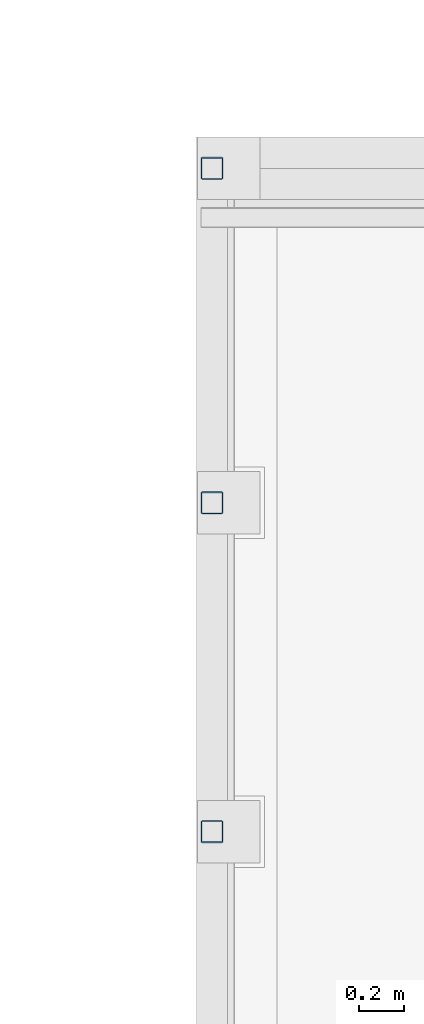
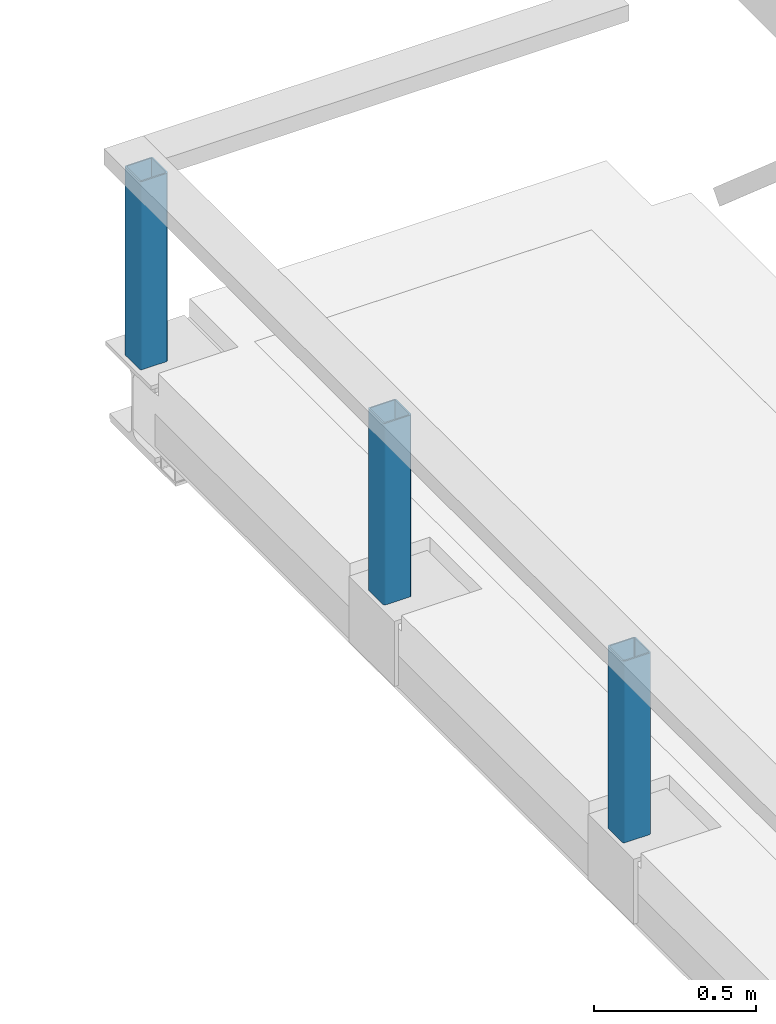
# One storey, part 13 of 68: 3 columns.
"""IFC2X3 building model written with IfcOpenShell, lengths in millimetres."""

from ifc_helpers import new_model, entity, si_unit, converted_unit, derived_unit, direction, frame, frame_2d, origin, place, context, subcontext, project, spatial, polyline, circle_curve, parameter, trimmed, segment, composite_curve, outline, extrude, source, transform, mapped, material, type_object, type_shapes, element, save


model = new_model("IFC2X3")

# Units and contexts
model_context = context("Model", 3, precision=0.01, world=origin(), true_north=direction((6.12303176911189e-17, 1.0)))
body_context = subcontext(model_context, "Body", "Model", "MODEL_VIEW")
ifc_project = project(units=[si_unit("LENGTHUNIT", "METRE", prefix="MILLI"), si_unit("AREAUNIT", "SQUARE_METRE", prefix="MILLI"), si_unit("VOLUMEUNIT", "CUBIC_METRE"), converted_unit("PLANEANGLEUNIT", "DEGREE", entity("IfcRatioMeasure", 0.0174532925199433), si_unit("PLANEANGLEUNIT", "RADIAN"), dimensions=[0, 0, 0, 0, 0, 0, 0]), si_unit("MASSUNIT", "GRAM", prefix="KILO"), derived_unit("MASSDENSITYUNIT", [(si_unit("MASSUNIT", "GRAM", prefix="KILO"), 1), (si_unit("LENGTHUNIT", "METRE"), -3)]), derived_unit("MOMENTOFINERTIAUNIT", [(si_unit("LENGTHUNIT", "METRE"), 4)]), si_unit("TIMEUNIT", "SECOND"), si_unit("FREQUENCYUNIT", "HERTZ"), si_unit("THERMODYNAMICTEMPERATUREUNIT", "DEGREE_CELSIUS"), derived_unit("THERMALTRANSMITTANCEUNIT", [(si_unit("MASSUNIT", "GRAM", prefix="KILO"), 1), (si_unit("THERMODYNAMICTEMPERATUREUNIT", "KELVIN"), -1), (si_unit("TIMEUNIT", "SECOND"), -3)]), derived_unit("VOLUMETRICFLOWRATEUNIT", [(si_unit("LENGTHUNIT", "METRE"), 3), (si_unit("TIMEUNIT", "SECOND"), -1)]), si_unit("ELECTRICCURRENTUNIT", "AMPERE"), si_unit("ELECTRICVOLTAGEUNIT", "VOLT"), si_unit("POWERUNIT", "WATT"), si_unit("FORCEUNIT", "NEWTON", prefix="KILO"), si_unit("ILLUMINANCEUNIT", "LUX"), si_unit("LUMINOUSFLUXUNIT", "LUMEN"), si_unit("LUMINOUSINTENSITYUNIT", "CANDELA"), derived_unit("USERDEFINED", [(si_unit("MASSUNIT", "GRAM", prefix="KILO"), -1), (si_unit("LENGTHUNIT", "METRE"), -2), (si_unit("TIMEUNIT", "SECOND"), 3), (si_unit("LUMINOUSFLUXUNIT", "LUMEN"), 1)]), derived_unit("LINEARVELOCITYUNIT", [(si_unit("LENGTHUNIT", "METRE"), 1), (si_unit("TIMEUNIT", "SECOND"), -1)]), si_unit("PRESSUREUNIT", "PASCAL"), derived_unit("USERDEFINED", [(si_unit("LENGTHUNIT", "METRE"), -2), (si_unit("MASSUNIT", "GRAM", prefix="KILO"), 1), (si_unit("TIMEUNIT", "SECOND"), -2)]), derived_unit("LINEARFORCEUNIT", [(si_unit("MASSUNIT", "GRAM", prefix="KILO"), 1), (si_unit("LENGTHUNIT", "METRE"), 1), (si_unit("TIMEUNIT", "SECOND"), -2), (si_unit("LENGTHUNIT", "METRE"), -1)]), derived_unit("PLANARFORCEUNIT", [(si_unit("MASSUNIT", "GRAM", prefix="KILO"), 1), (si_unit("LENGTHUNIT", "METRE"), 1), (si_unit("TIMEUNIT", "SECOND"), -2), (si_unit("LENGTHUNIT", "METRE"), -2)])], contexts=[model_context])

# Site, building, storey
site_placement = place(None, origin())
site = spatial("IfcSite", under=ifc_project, at=site_placement, Name="Theater aan de Parade", CompositionType="ELEMENT")
building_placement = place(site_placement, origin())
building = spatial("IfcBuilding", under=site, at=building_placement, Name="Theater aan de Parade", CompositionType="ELEMENT")
storey_placement = place(building_placement, frame((0.0, 0.0, 8750.0)))
storey = spatial("IfcBuildingStorey", under=building, at=storey_placement, Name="02 tweede verdieping", CompositionType="ELEMENT", Elevation=8750.0)

# Columns
ifc_material = material(Name="00_PBT_MAT_staal_S355")
column_type_1 = type_object("IfcColumnType", Name="28_PBT_SC_staal_koker:S355_K100x100x5", PredefinedType="COLUMN", material=ifc_material)
shared_shape_1 = source(origin(), body_context, "Body", "SweptSolid", [
    extrude(outline(composite_curve([segment(polyline([(-42.5, -50.0), (42.5, -50.0)]), True, "CONTINUOUS"), segment(trimmed(circle_curve(frame_2d((42.5, -42.5), x_axis=(0.0, 1.0)), 7.5), [parameter(180.0)], [parameter(270.0)], True, "PARAMETER"), True, "CONTINUOUS"), segment(polyline([(50.0, -42.5), (50.0, 42.5)]), True, "CONTINUOUS"), segment(trimmed(circle_curve(frame_2d((42.5, 42.5), x_axis=(0.0, 1.0)), 7.5), [parameter(270.0)], [parameter(360.0)], True, "PARAMETER"), True, "CONTINUOUS"), segment(polyline([(42.5, 50.0), (-42.5, 50.0)]), True, "CONTINUOUS"), segment(trimmed(circle_curve(frame_2d((-42.5, 42.5), x_axis=(0.0, 1.0)), 7.5), [parameter(0.0)], [parameter(90.0000000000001)], True, "PARAMETER"), True, "CONTINUOUS"), segment(polyline([(-50.0, 42.5), (-50.0, -42.5)]), True, "CONTINUOUS"), segment(trimmed(circle_curve(frame_2d((-42.5, -42.5), x_axis=(0.0, 1.0)), 7.5), [parameter(89.9999999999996)], [parameter(180.0)], True, "PARAMETER"), True, "CONTINUOUS")], self_intersect=False), holes=[composite_curve([segment(polyline([(45.0, 40.0), (45.0, -40.0)]), True, "CONTINUOUS"), segment(trimmed(circle_curve(frame_2d((40.0, -40.0), x_axis=(0.0, 1.0)), 5.0), [parameter(180.0)], [parameter(270.0)], True, "PARAMETER"), False, "CONTINUOUS"), segment(polyline([(40.0, -45.0), (-40.0, -45.0)]), True, "CONTINUOUS"), segment(trimmed(circle_curve(frame_2d((-40.0, -40.0), x_axis=(0.0, 1.0)), 5.0), [parameter(90.0)], [parameter(180.0)], True, "PARAMETER"), False, "CONTINUOUS"), segment(polyline([(-45.0, -40.0), (-45.0, 40.0)]), True, "CONTINUOUS"), segment(trimmed(circle_curve(frame_2d((-40.0, 40.0), x_axis=(0.0, 1.0)), 5.0), [parameter(4.07110999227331e-13)], [parameter(90.0000000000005)], True, "PARAMETER"), False, "CONTINUOUS"), segment(polyline([(-40.0, 45.0), (40.0, 45.0)]), True, "CONTINUOUS"), segment(trimmed(circle_curve(frame_2d((40.0, 40.0), x_axis=(0.0, 1.0)), 5.0), [parameter(270.0)], [parameter(0.0)], True, "PARAMETER"), False, "CONTINUOUS")], self_intersect=False)]), frame((0.0, 0.0, 8695.0), z_axis=(0.0, 0.0, 1.0), x_axis=(0.0, 1.0, 0.0)), (0.0, 0.0, 1.0), 708.000000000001),
])
type_shapes(column_type_1, [shared_shape_1])
column_placement = place(storey_placement, frame((34296.8569737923, 29518.2922984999, -8750.0), z_axis=(0.0, 0.0, 1.0), x_axis=(-1.0, 0.0, 0.0)))
element("IfcColumn", 1, at=column_placement, inside=storey, type_object=column_type_1, material=ifc_material, Name="28_PBT_SC_staal_koker:S355_K100x100x5", ObjectType="28_PBT_SC_staal_koker:S355_K100x100x5", context=body_context, shape_type="MappedRepresentation", body=[
    mapped(shared_shape_1, transform((0.0, 0.0, 0.0), scale=1.0)),
])
column_type_2 = type_object("IfcColumnType", Name="28_PBT_SC_staal_koker:S355_K100x100x5", PredefinedType="COLUMN", material=ifc_material)
shared_shape_2 = source(origin(), body_context, "Body", "SweptSolid", [
    extrude(outline(composite_curve([segment(polyline([(-42.5, -50.0), (42.5, -50.0)]), True, "CONTINUOUS"), segment(trimmed(circle_curve(frame_2d((42.5, -42.5), x_axis=(0.0, 1.0)), 7.5), [parameter(180.0)], [parameter(270.0)], True, "PARAMETER"), True, "CONTINUOUS"), segment(polyline([(50.0, -42.5), (50.0, 42.5)]), True, "CONTINUOUS"), segment(trimmed(circle_curve(frame_2d((42.5, 42.5), x_axis=(0.0, 1.0)), 7.5), [parameter(270.0)], [parameter(360.0)], True, "PARAMETER"), True, "CONTINUOUS"), segment(polyline([(42.5, 50.0), (-42.5, 50.0)]), True, "CONTINUOUS"), segment(trimmed(circle_curve(frame_2d((-42.5, 42.5), x_axis=(0.0, 1.0)), 7.5), [parameter(0.0)], [parameter(90.0000000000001)], True, "PARAMETER"), True, "CONTINUOUS"), segment(polyline([(-50.0, 42.5), (-50.0, -42.5)]), True, "CONTINUOUS"), segment(trimmed(circle_curve(frame_2d((-42.5, -42.5), x_axis=(0.0, 1.0)), 7.5), [parameter(89.9999999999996)], [parameter(180.0)], True, "PARAMETER"), True, "CONTINUOUS")], self_intersect=False), holes=[composite_curve([segment(polyline([(45.0, 40.0), (45.0, -40.0)]), True, "CONTINUOUS"), segment(trimmed(circle_curve(frame_2d((40.0, -40.0), x_axis=(0.0, 1.0)), 5.0), [parameter(180.0)], [parameter(270.0)], True, "PARAMETER"), False, "CONTINUOUS"), segment(polyline([(40.0, -45.0), (-40.0, -45.0)]), True, "CONTINUOUS"), segment(trimmed(circle_curve(frame_2d((-40.0, -40.0), x_axis=(0.0, 1.0)), 5.0), [parameter(90.0)], [parameter(180.0)], True, "PARAMETER"), False, "CONTINUOUS"), segment(polyline([(-45.0, -40.0), (-45.0, 40.0)]), True, "CONTINUOUS"), segment(trimmed(circle_curve(frame_2d((-40.0, 40.0), x_axis=(0.0, 1.0)), 5.0), [parameter(4.07110999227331e-13)], [parameter(90.0000000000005)], True, "PARAMETER"), False, "CONTINUOUS"), segment(polyline([(-40.0, 45.0), (40.0, 45.0)]), True, "CONTINUOUS"), segment(trimmed(circle_curve(frame_2d((40.0, 40.0), x_axis=(0.0, 1.0)), 5.0), [parameter(270.0)], [parameter(0.0)], True, "PARAMETER"), False, "CONTINUOUS")], self_intersect=False)]), frame((0.0, 0.0, 8720.0), z_axis=(0.0, 0.0, 1.0), x_axis=(0.0, 1.0, 0.0)), (0.0, 0.0, 1.0), 683.000000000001),
])
type_shapes(column_type_2, [shared_shape_2])
for number, where, z_axis, x_axis in (
    (2, (34296.8569737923, 28018.2922984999, -8750.0), (0.0, 0.0, 1.0), (-1.0, 0.0, 0.0)),
    (3, (34296.8569737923, 26543.2922984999, -8750.0), (0.0, 0.0, 1.0), (-1.0, 0.0, 0.0)),
):
    element("IfcColumn", number, at=place(storey_placement, frame(where, z_axis=z_axis, x_axis=x_axis)), inside=storey, type_object=column_type_2, material=ifc_material, Name="28_PBT_SC_staal_koker:S355_K100x100x5", ObjectType="28_PBT_SC_staal_koker:S355_K100x100x5", context=body_context, shape_type="MappedRepresentation", body=[
        mapped(shared_shape_2, transform((0.0, 0.0, 0.0), scale=1.0)),
    ])

save(model, "model.ifc")
